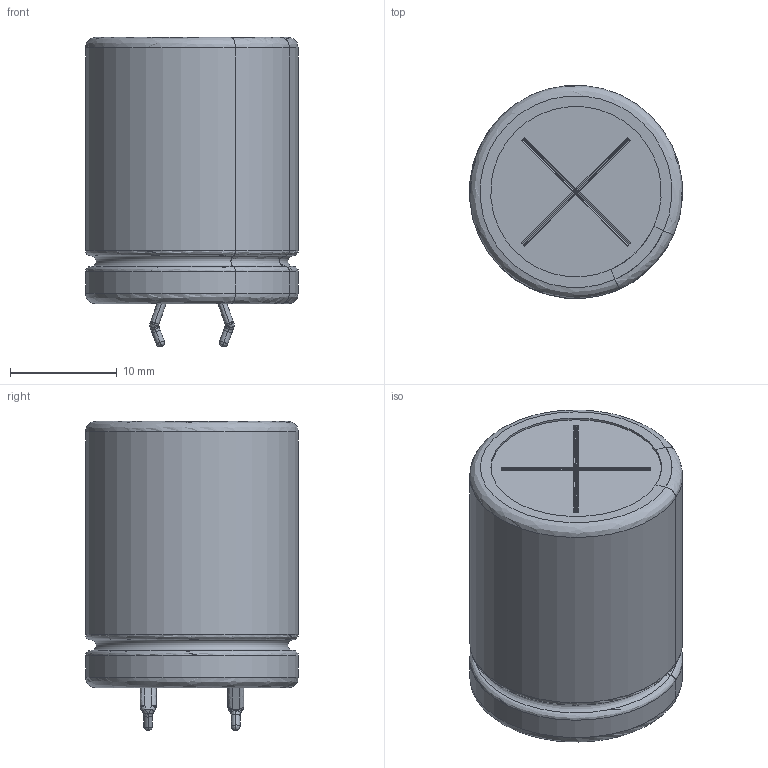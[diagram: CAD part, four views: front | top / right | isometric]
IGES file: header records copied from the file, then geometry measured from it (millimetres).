
Start section: JAMA-IS VERSION  1.0
Bounding box: 19.94 x 19.94 x 29.02 mm (x, y, z)
Surface area: 5899.4 mm2 (no closed solid volume)
Topology: 0 solids, 0 shells, 208 faces, 2162 edges, 2126 vertices
Faces by surface type: bspline 208
